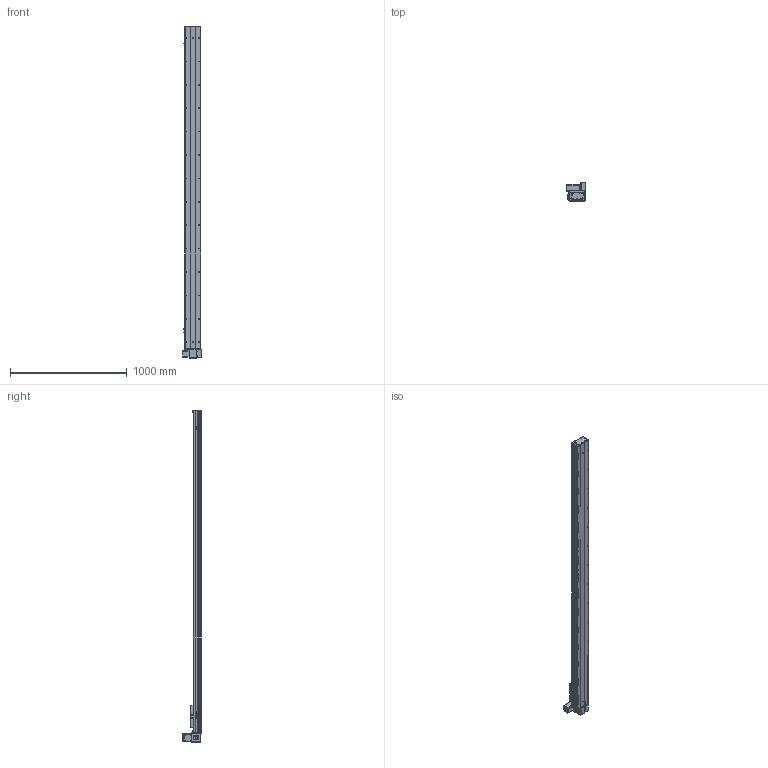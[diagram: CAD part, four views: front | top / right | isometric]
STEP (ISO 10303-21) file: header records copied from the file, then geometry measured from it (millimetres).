
FILE_DESCRIPTION (( 'STEP AP203' ), '1' );
FILE_NAME ('Y135CB-D90-S2450-UL-P400W.STEP', '2020-02-18T08:03:20', ( '微软用户' ), ( '微软中国' ), 'SwSTEP 2.0', 'SolidWorks 2017', '' );
FILE_SCHEMA (( 'CONFIG_CONTROL_DESIGN' ));
Length unit declared in the file: millimetre
Products named in the file (18): 5CB --掛极耜裔啣-; Y10B--々湍喘謫眊--666; C-詩湍揤踡え-陔; Y135CB-耜裔; Y135CB-D90-S2450-UL-P400W; 135CB--詩湍-CE; 135CB---遴掛极.-; Y100-135俋离換覜ん--; 35CB---喘謫眊楊擘啣; Y135C-陔俋离換覜結え-; 0B-埴倛裔啣; 5C--俋欶; 0B-源倛裔啣; C-雄赽釱--; 0B-萇儂楊擘啣; Y10B-耜蚾蟀諉啣----; san松下电机400不带刹车----; 00B-俋欶BM--
Assembly tree (21 placements, depth 2):
  Y135CB-D90-S2450-UL-P400W
    Y135CB-耜裔
    135CB---遴掛极.-
    35CB---喘謫眊楊擘啣
    0B-埴倛裔啣
    0B-源倛裔啣
    0B-萇儂楊擘啣
    san松下电机400不带刹车----
    5CB --掛极耜裔啣-  x2
    C-詩湍揤踡え-陔  x2
    135CB--詩湍-CE
    Y100-135俋离換覜ん--  x3
    Y135C-陔俋离換覜結え-
    5C--俋欶
    C-雄赽釱--
    Y10B-耜蚾蟀諉啣----
    00B-俋欶BM--
    Y10B--々湍喘謫眊--666
Bounding box: 157 x 158.7 x 2838 mm (x, y, z)
Volume: 8152030.9 mm3; surface area: 3227851.3 mm2
Topology: 21 solids, 21 shells, 973 faces, 2653 edges, 1758 vertices
Faces by surface type: cylinder 501, plane 456, cone 16
Entity records: 30763 total; most frequent: CARTESIAN_POINT 5120, DIRECTION 5113, ORIENTED_EDGE 4782, EDGE_CURVE 2391, AXIS2_PLACEMENT_3D 1875, VERTEX_POINT 1586, LINE 1363, VECTOR 1363
